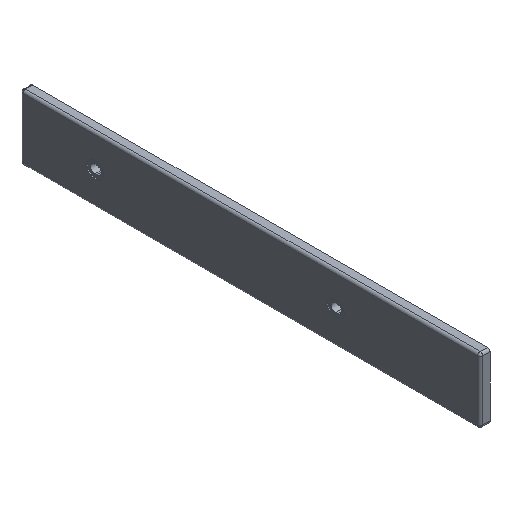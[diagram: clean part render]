
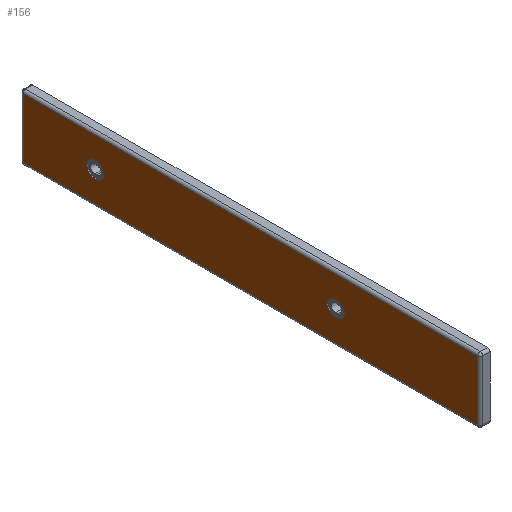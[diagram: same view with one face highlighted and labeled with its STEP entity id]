
A CAD part, isometric view. The second image highlights one B-rep face of the part: STEP entity #156.
In plain terms, the highlighted planar face has unit normal (-1, 0, 0).
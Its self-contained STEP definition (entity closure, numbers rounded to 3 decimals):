
#47=FACE_BOUND('',#305,.T.);
#48=FACE_BOUND('',#306,.T.);
#49=FACE_BOUND('',#307,.T.);
#106=CIRCLE('',#1091,11.5);
#107=CIRCLE('',#1092,11.5);
#108=CIRCLE('',#1093,11.5);
#109=CIRCLE('',#1094,11.5);
#156=ADVANCED_FACE('',(#47,#48,#49),#215,.F.);
#215=PLANE('',#1095);
#305=EDGE_LOOP('',(#436,#437,#438,#439));
#306=EDGE_LOOP('',(#440,#441,#442,#443));
#307=EDGE_LOOP('',(#444,#445,#446,#447));
#436=ORIENTED_EDGE('',*,*,#800,.F.);
#437=ORIENTED_EDGE('',*,*,#801,.F.);
#438=ORIENTED_EDGE('',*,*,#802,.F.);
#439=ORIENTED_EDGE('',*,*,#803,.F.);
#440=ORIENTED_EDGE('',*,*,#804,.F.);
#441=ORIENTED_EDGE('',*,*,#805,.F.);
#442=ORIENTED_EDGE('',*,*,#806,.F.);
#443=ORIENTED_EDGE('',*,*,#807,.F.);
#444=ORIENTED_EDGE('',*,*,#808,.T.);
#445=ORIENTED_EDGE('',*,*,#809,.T.);
#446=ORIENTED_EDGE('',*,*,#810,.T.);
#447=ORIENTED_EDGE('',*,*,#811,.T.);
#700=VERTEX_POINT('',#1636);
#701=VERTEX_POINT('',#1637);
#702=VERTEX_POINT('',#1639);
#703=VERTEX_POINT('',#1641);
#704=VERTEX_POINT('',#1644);
#705=VERTEX_POINT('',#1645);
#706=VERTEX_POINT('',#1647);
#707=VERTEX_POINT('',#1649);
#708=VERTEX_POINT('',#1652);
#709=VERTEX_POINT('',#1653);
#710=VERTEX_POINT('',#1655);
#711=VERTEX_POINT('',#1657);
#800=EDGE_CURVE('',#700,#701,#924,.T.);
#801=EDGE_CURVE('',#702,#700,#106,.T.);
#802=EDGE_CURVE('',#703,#702,#925,.T.);
#803=EDGE_CURVE('',#701,#703,#107,.T.);
#804=EDGE_CURVE('',#704,#705,#926,.T.);
#805=EDGE_CURVE('',#706,#704,#108,.T.);
#806=EDGE_CURVE('',#707,#706,#927,.T.);
#807=EDGE_CURVE('',#705,#707,#109,.T.);
#808=EDGE_CURVE('',#708,#709,#928,.T.);
#809=EDGE_CURVE('',#709,#710,#929,.T.);
#810=EDGE_CURVE('',#710,#711,#930,.T.);
#811=EDGE_CURVE('',#711,#708,#931,.T.);
#924=LINE('',#1635,#1012);
#925=LINE('',#1640,#1013);
#926=LINE('',#1643,#1014);
#927=LINE('',#1648,#1015);
#928=LINE('',#1651,#1016);
#929=LINE('',#1654,#1017);
#930=LINE('',#1656,#1018);
#931=LINE('',#1658,#1019);
#1012=VECTOR('',#1290,1.);
#1013=VECTOR('',#1293,1.);
#1014=VECTOR('',#1296,1.);
#1015=VECTOR('',#1299,1.);
#1016=VECTOR('',#1302,1.);
#1017=VECTOR('',#1303,1.);
#1018=VECTOR('',#1304,1.);
#1019=VECTOR('',#1305,1.);
#1091=AXIS2_PLACEMENT_3D('',#1638,#1291,#1292);
#1092=AXIS2_PLACEMENT_3D('',#1642,#1294,#1295);
#1093=AXIS2_PLACEMENT_3D('',#1646,#1297,#1298);
#1094=AXIS2_PLACEMENT_3D('',#1650,#1300,#1301);
#1095=AXIS2_PLACEMENT_3D('',#1659,#1306,#1307);
#1290=DIRECTION('',(0.,1.,0.));
#1291=DIRECTION('',(-1.,0.,0.));
#1292=DIRECTION('',(0.,-1.,0.));
#1293=DIRECTION('',(0.,-1.,0.));
#1294=DIRECTION('',(-1.,0.,0.));
#1295=DIRECTION('',(0.,-1.,0.));
#1296=DIRECTION('',(0.,1.,0.));
#1297=DIRECTION('',(-1.,0.,0.));
#1298=DIRECTION('',(0.,-1.,0.));
#1299=DIRECTION('',(0.,-1.,0.));
#1300=DIRECTION('',(-1.,0.,0.));
#1301=DIRECTION('',(0.,-1.,0.));
#1302=DIRECTION('',(0.,-1.,0.));
#1303=DIRECTION('',(0.,0.,1.));
#1304=DIRECTION('',(0.,1.,0.));
#1305=DIRECTION('',(0.,0.,-1.));
#1306=DIRECTION('',(1.,0.,0.));
#1307=DIRECTION('',(0.,0.,-1.));
#1635=CARTESIAN_POINT('',(0.,220.5,61.5));
#1636=CARTESIAN_POINT('',(0.,220.5,61.5));
#1637=CARTESIAN_POINT('',(0.,223.5,61.5));
#1638=CARTESIAN_POINT('',(0.,220.5,50.));
#1639=CARTESIAN_POINT('',(0.,220.5,38.5));
#1640=CARTESIAN_POINT('',(0.,223.5,38.5));
#1641=CARTESIAN_POINT('',(0.,223.5,38.5));
#1642=CARTESIAN_POINT('',(0.,223.5,50.));
#1643=CARTESIAN_POINT('',(0.,590.5,61.5));
#1644=CARTESIAN_POINT('',(0.,590.5,61.5));
#1645=CARTESIAN_POINT('',(0.,593.5,61.5));
#1646=CARTESIAN_POINT('',(0.,590.5,50.));
#1647=CARTESIAN_POINT('',(0.,590.5,38.5));
#1648=CARTESIAN_POINT('',(0.,593.5,38.5));
#1649=CARTESIAN_POINT('',(0.,593.5,38.5));
#1650=CARTESIAN_POINT('',(0.,593.5,50.));
#1651=CARTESIAN_POINT('',(0.,0.,4.));
#1652=CARTESIAN_POINT('',(0.,703.,4.));
#1653=CARTESIAN_POINT('',(0.,4.,4.));
#1654=CARTESIAN_POINT('',(0.,4.,0.));
#1655=CARTESIAN_POINT('',(0.,4.,96.));
#1656=CARTESIAN_POINT('',(0.,0.,96.));
#1657=CARTESIAN_POINT('',(0.,703.,96.));
#1658=CARTESIAN_POINT('',(0.,703.,0.));
#1659=CARTESIAN_POINT('',(0.,0.,0.));
